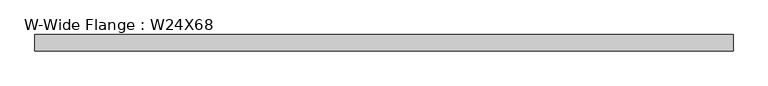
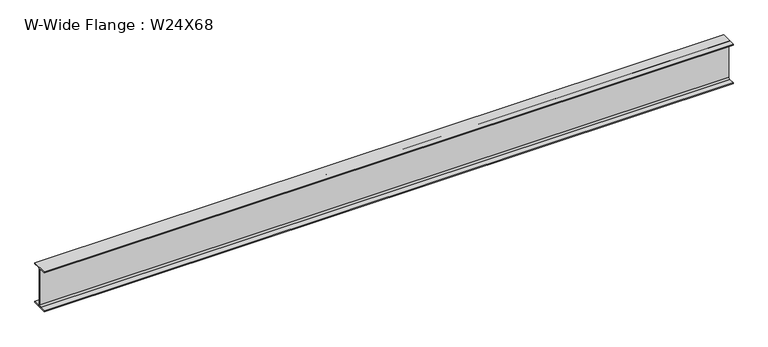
"""IFC4 building model written with IfcOpenShell, lengths in millimetres: beam geometry, W-Wide Flange : W24X68."""

from ifc_helpers import new_model, si_unit, point, frame, frame_2d, origin, place, context, project, spatial, polyline, circle_curve, trimmed, segment, composite_curve, outline, extrude, source, transform, mapped, element, save


def w_wide_flange_w24x68_f1038f88(model_context):
    return source(origin(), model_context, "Body", "SweptSolid", [
        extrude(outline(composite_curve([segment(polyline([(113.919, -286.131), (113.919, -300.99), (-113.919, -300.99), (-113.919, -286.131), (-28.5115, -286.131)]), True, "CONTINUOUS"), segment(trimmed(circle_curve(frame_2d((-28.5115, -262.89)), 23.241), [point((-28.5115, -286.131))], [point((-5.2705, -262.89))], True, "CARTESIAN"), True, "CONTINUOUS"), segment(polyline([(-5.2705, -262.89), (-5.2705, 262.89)]), True, "CONTINUOUS"), segment(trimmed(circle_curve(frame_2d((-28.5115, 262.89)), 23.241), [point((-5.2705, 262.89))], [point((-28.5115, 286.131))], True, "CARTESIAN"), True, "CONTINUOUS"), segment(polyline([(-28.5115, 286.131), (-113.919, 286.131), (-113.919, 300.99), (113.919, 300.99), (113.919, 286.131), (28.5115, 286.131)]), True, "CONTINUOUS"), segment(trimmed(circle_curve(frame_2d((28.5115, 262.89)), 23.241), [point((28.5115, 286.131))], [point((5.2705, 262.89))], True, "CARTESIAN"), True, "CONTINUOUS"), segment(polyline([(5.2705, 262.89), (5.2705, -262.89)]), True, "CONTINUOUS"), segment(trimmed(circle_curve(frame_2d((28.5115, -262.89)), 23.241), [point((5.2705, -262.89))], [point((28.5115, -286.131))], True, "CARTESIAN"), True, "CONTINUOUS"), segment(polyline([(28.5115, -286.131), (113.919, -286.131)]), True, "CONTINUOUS")], self_intersect=False)), frame((-4914.9, 0.0, 0.0), z_axis=(1.0, 0.0, 0.0), x_axis=(0.0, 1.0, 0.0)), (0.0, 0.0, 1.0), 9829.8),
    ])


if __name__ == "__main__":
    model = new_model("IFC4")
    model_context = context("Model", 3, world=origin())
    ifc_project = project(units=[si_unit("LENGTHUNIT", "METRE", prefix="MILLI")], contexts=[model_context])
    site = spatial("IfcSite", under=ifc_project)
    building = spatial("IfcBuilding", under=site)
    placement = place(None, origin())
    w_wide_flange_w24x68_shape = w_wide_flange_w24x68_f1038f88(model_context)
    element("IfcBeam", 1, ObjectType="W-Wide Flange : W24X68", at=placement, inside=building, context=model_context, shape_type="MappedRepresentation", body=[
        mapped(w_wide_flange_w24x68_shape, transform((0.0, 0.0, 0.0), x_axis=(1.0, 0.0, 0.0), y_axis=(0.0, 1.0, 0.0), z_axis=(0.0, 0.0, 1.0))),
    ])
    save(model, "model.ifc")
